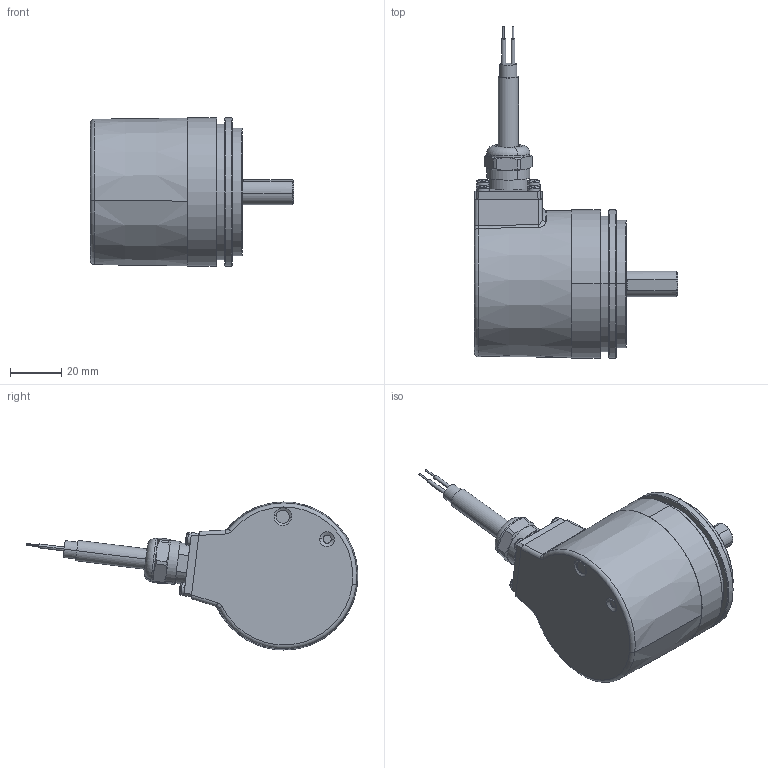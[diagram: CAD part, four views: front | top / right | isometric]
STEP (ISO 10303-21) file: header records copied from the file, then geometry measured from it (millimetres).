
FILE_DESCRIPTION (( 'STEP AP203' ), '1' );
FILE_NAME ('8.F5863.22X2.XXXX.STEP', '2013-05-15T05:58:53', ( 'LauferA' ), ( 'Microsoft' ), 'SwSTEP 2.0', 'SolidWorks 2012', '' );
FILE_SCHEMA (( 'CONFIG_CONTROL_DESIGN' ));
Length unit declared in the file: millimetre
Products named in the file (1): 8.F5863.22X2.XXXX
Bounding box: 79.5 x 129.99 x 58 mm (x, y, z)
Volume: 85517.8 mm3; surface area: 53651.7 mm2
Topology: 13 solids, 13 shells, 822 faces, 2054 edges, 1250 vertices
Faces by surface type: cylinder 259, plane 214, cone 161, torus 104, sphere 48, bspline 36
Entity records: 26339 total; most frequent: CARTESIAN_POINT 7290, DIRECTION 4182, ORIENTED_EDGE 3836, EDGE_CURVE 1918, AXIS2_PLACEMENT_3D 1771, VERTEX_POINT 1190, CIRCLE 984, EDGE_LOOP 952
